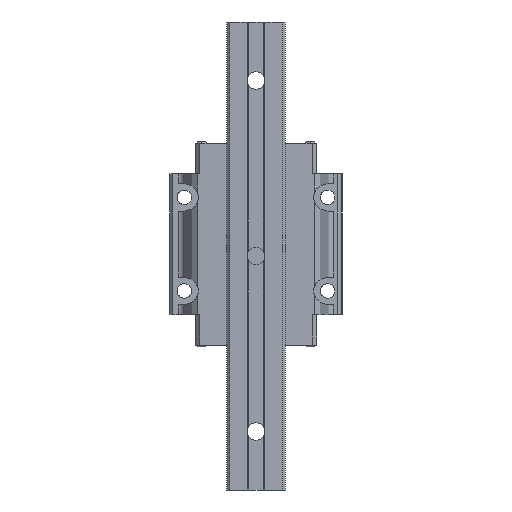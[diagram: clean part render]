
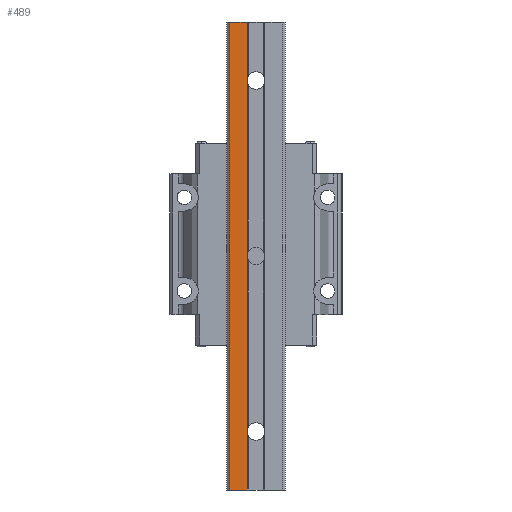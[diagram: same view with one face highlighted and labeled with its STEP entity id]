
A CAD part, front view. The second image highlights one B-rep face of the part: STEP entity #489.
In plain terms, the highlighted planar face has unit normal (0, -1, 0).
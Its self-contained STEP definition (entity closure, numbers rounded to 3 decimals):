
#489 = ADVANCED_FACE ( 'NONE', ( #18664 ), #1532, .T. ) ;
#560 = EDGE_CURVE ( 'NONE', #6225, #19941, #13195, .T. ) ;
#572 = VECTOR ( 'NONE', #6560, 1000. ) ;
#981 = EDGE_LOOP ( 'NONE', ( #4250, #15634, #5358, #11617, #14522, #14792, #12282 ) ) ;
#1452 = VECTOR ( 'NONE', #18998, 1000. ) ;
#1532 = PLANE ( 'NONE',  #10785 ) ;
#2080 = VECTOR ( 'NONE', #11938, 1000. ) ;
#2371 = CARTESIAN_POINT ( 'NONE',  ( -3., -15.5, -30. ) ) ;
#3015 = CARTESIAN_POINT ( 'NONE',  ( -3., -15.5, -60. ) ) ;
#3477 = VERTEX_POINT ( 'NONE', #18158 ) ;
#3480 = DIRECTION ( 'NONE',  ( 0., -1., 0. ) ) ;
#3777 = DIRECTION ( 'NONE',  ( 0., 0., 1. ) ) ;
#4113 = EDGE_CURVE ( 'NONE', #9838, #11911, #9952, .T. ) ;
#4176 = CARTESIAN_POINT ( 'NONE',  ( 0., -15.5, 100. ) ) ;
#4250 = ORIENTED_EDGE ( 'NONE', *, *, #12459, .T. ) ;
#4284 = LINE ( 'NONE', #15222, #18624 ) ;
#4286 = EDGE_CURVE ( 'NONE', #18703, #4882, #4284, .T. ) ;
#4652 = VECTOR ( 'NONE', #16791, 1000. ) ;
#4882 = VERTEX_POINT ( 'NONE', #3015 ) ;
#5119 = EDGE_CURVE ( 'NONE', #4882, #9838, #17735, .T. ) ;
#5358 = ORIENTED_EDGE ( 'NONE', *, *, #5119, .T. ) ;
#5515 = VECTOR ( 'NONE', #6685, 1000. ) ;
#5734 = CARTESIAN_POINT ( 'NONE',  ( -3., -15.5, -40. ) ) ;
#6225 = VERTEX_POINT ( 'NONE', #19257 ) ;
#6481 = LINE ( 'NONE', #12709, #1452 ) ;
#6560 = DIRECTION ( 'NONE',  ( 0., 0., 1. ) ) ;
#6685 = DIRECTION ( 'NONE',  ( 0., 0., 1. ) ) ;
#6917 = CARTESIAN_POINT ( 'NONE',  ( -9., -15.5, -60. ) ) ;
#7862 = DIRECTION ( 'NONE',  ( 0., 0., -1. ) ) ;
#9838 = VERTEX_POINT ( 'NONE', #5734 ) ;
#9927 = VECTOR ( 'NONE', #3777, 1000. ) ;
#9952 = LINE ( 'NONE', #2371, #5515 ) ;
#10627 = LINE ( 'NONE', #19780, #2080 ) ;
#10785 = AXIS2_PLACEMENT_3D ( 'NONE', #18864, #3480, #7862 ) ;
#11243 = CARTESIAN_POINT ( 'NONE',  ( -3., -15.5, -30. ) ) ;
#11573 = EDGE_CURVE ( 'NONE', #3477, #19941, #13481, .T. ) ;
#11617 = ORIENTED_EDGE ( 'NONE', *, *, #4113, .T. ) ;
#11911 = VERTEX_POINT ( 'NONE', #13505 ) ;
#11938 = DIRECTION ( 'NONE',  ( 0., 0., -1. ) ) ;
#12282 = ORIENTED_EDGE ( 'NONE', *, *, #11573, .F. ) ;
#12459 = EDGE_CURVE ( 'NONE', #3477, #18703, #10627, .T. ) ;
#12709 = CARTESIAN_POINT ( 'NONE',  ( -3., -15.5, -30. ) ) ;
#13195 = LINE ( 'NONE', #13287, #9927 ) ;
#13287 = CARTESIAN_POINT ( 'NONE',  ( -3., -15.5, -30. ) ) ;
#13481 = LINE ( 'NONE', #4176, #4652 ) ;
#13505 = CARTESIAN_POINT ( 'NONE',  ( -3., -15.5, 20. ) ) ;
#14522 = ORIENTED_EDGE ( 'NONE', *, *, #18008, .T. ) ;
#14792 = ORIENTED_EDGE ( 'NONE', *, *, #560, .T. ) ;
#15222 = CARTESIAN_POINT ( 'NONE',  ( 0., -15.5, -60. ) ) ;
#15327 = DIRECTION ( 'NONE',  ( 1., 0., 0. ) ) ;
#15634 = ORIENTED_EDGE ( 'NONE', *, *, #4286, .T. ) ;
#16791 = DIRECTION ( 'NONE',  ( 1., 0., 0. ) ) ;
#17735 = LINE ( 'NONE', #11243, #572 ) ;
#18008 = EDGE_CURVE ( 'NONE', #11911, #6225, #6481, .T. ) ;
#18158 = CARTESIAN_POINT ( 'NONE',  ( -9., -15.5, 100. ) ) ;
#18267 = CARTESIAN_POINT ( 'NONE',  ( -3., -15.5, 100. ) ) ;
#18624 = VECTOR ( 'NONE', #15327, 1000. ) ;
#18664 = FACE_OUTER_BOUND ( 'NONE', #981, .T. ) ;
#18703 = VERTEX_POINT ( 'NONE', #6917 ) ;
#18864 = CARTESIAN_POINT ( 'NONE',  ( -9., -15.5, -30. ) ) ;
#18998 = DIRECTION ( 'NONE',  ( 0., 0., 1. ) ) ;
#19257 = CARTESIAN_POINT ( 'NONE',  ( -3., -15.5, 80. ) ) ;
#19780 = CARTESIAN_POINT ( 'NONE',  ( -9., -15.5, -30. ) ) ;
#19941 = VERTEX_POINT ( 'NONE', #18267 ) ;
